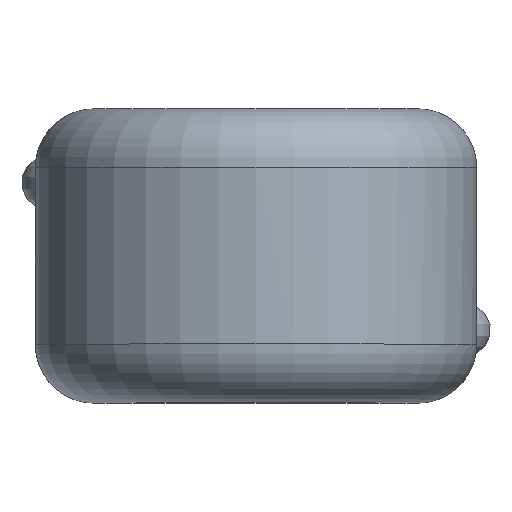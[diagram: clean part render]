
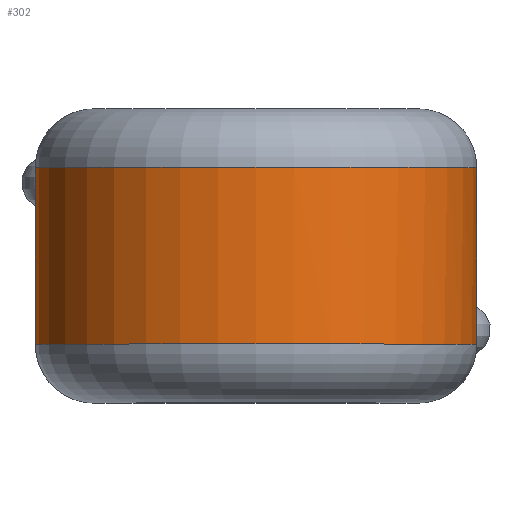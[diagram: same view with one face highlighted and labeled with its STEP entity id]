
A CAD part, top view. The second image highlights one B-rep face of the part: STEP entity #302.
In plain terms, the highlighted cylindrical face has radius 3.75 mm (diameter 7.5 mm), a full revolution.
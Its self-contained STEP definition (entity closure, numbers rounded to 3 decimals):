
#24=B_SPLINE_CURVE_WITH_KNOTS('',3,(#1019,#1020,#1021,#1022,#1023,#1024,
#1025,#1026,#1027,#1028),.UNSPECIFIED.,.F.,.F.,(4,1,1,1,1,1,1,4),(-0.233,
-0.199,-0.166,-0.133,-0.1,
-0.05,-0.033,0.),.UNSPECIFIED.);
#26=B_SPLINE_CURVE_WITH_KNOTS('',3,(#1090,#1091,#1092,#1093,#1094,#1095,
#1096,#1097,#1098,#1099),.UNSPECIFIED.,.F.,.F.,(4,1,1,1,1,1,1,4),(-0.233,
-0.199,-0.166,-0.133,-0.1,
-0.05,-0.033,0.),.UNSPECIFIED.);
#72=FACE_OUTER_BOUND('',#92,.T.);
#92=EDGE_LOOP('',(#241,#242,#243,#244,#245,#246,#247,#248,#249,#250));
#105=LINE('',#1084,#108);
#108=VECTOR('',#407,3.75);
#120=CIRCLE('',#347,3.75);
#121=CIRCLE('',#348,3.75);
#122=CIRCLE('',#349,3.75);
#123=CIRCLE('',#351,3.75);
#124=CIRCLE('',#352,3.75);
#125=CIRCLE('',#353,3.75);
#143=VERTEX_POINT('',#1015);
#144=VERTEX_POINT('',#1017);
#147=VERTEX_POINT('',#1076);
#148=VERTEX_POINT('',#1079);
#149=VERTEX_POINT('',#1083);
#150=VERTEX_POINT('',#1085);
#151=VERTEX_POINT('',#1087);
#152=VERTEX_POINT('',#1089);
#176=EDGE_CURVE('',#143,#144,#24,.T.);
#181=EDGE_CURVE('',#144,#147,#120,.T.);
#182=EDGE_CURVE('',#148,#143,#121,.T.);
#183=EDGE_CURVE('',#147,#148,#122,.T.);
#184=EDGE_CURVE('',#148,#149,#105,.T.);
#185=EDGE_CURVE('',#149,#150,#123,.T.);
#186=EDGE_CURVE('',#150,#151,#124,.T.);
#187=EDGE_CURVE('',#151,#152,#26,.T.);
#188=EDGE_CURVE('',#152,#149,#125,.T.);
#241=ORIENTED_EDGE('',*,*,#176,.T.);
#242=ORIENTED_EDGE('',*,*,#181,.T.);
#243=ORIENTED_EDGE('',*,*,#183,.T.);
#244=ORIENTED_EDGE('',*,*,#184,.T.);
#245=ORIENTED_EDGE('',*,*,#185,.T.);
#246=ORIENTED_EDGE('',*,*,#186,.T.);
#247=ORIENTED_EDGE('',*,*,#187,.T.);
#248=ORIENTED_EDGE('',*,*,#188,.T.);
#249=ORIENTED_EDGE('',*,*,#184,.F.);
#250=ORIENTED_EDGE('',*,*,#182,.T.);
#292=CYLINDRICAL_SURFACE('',#350,3.75);
#302=ADVANCED_FACE('',(#72),#292,.T.);
#347=AXIS2_PLACEMENT_3D('',#1078,#399,#400);
#348=AXIS2_PLACEMENT_3D('',#1080,#401,#402);
#349=AXIS2_PLACEMENT_3D('',#1081,#403,#404);
#350=AXIS2_PLACEMENT_3D('',#1082,#405,#406);
#351=AXIS2_PLACEMENT_3D('',#1086,#408,#409);
#352=AXIS2_PLACEMENT_3D('',#1088,#410,#411);
#353=AXIS2_PLACEMENT_3D('',#1100,#412,#413);
#399=DIRECTION('center_axis',(0.,-1.,0.));
#400=DIRECTION('ref_axis',(-1.,0.,0.));
#401=DIRECTION('center_axis',(0.,-1.,0.));
#402=DIRECTION('ref_axis',(-1.,0.,0.));
#403=DIRECTION('center_axis',(0.,-1.,0.));
#404=DIRECTION('ref_axis',(-1.,0.,0.));
#405=DIRECTION('center_axis',(0.,-1.,0.));
#406=DIRECTION('ref_axis',(1.,0.,0.));
#407=DIRECTION('',(0.,-1.,0.));
#408=DIRECTION('center_axis',(0.,1.,0.));
#409=DIRECTION('ref_axis',(-1.,0.,0.));
#410=DIRECTION('center_axis',(0.,1.,0.));
#411=DIRECTION('ref_axis',(-1.,0.,0.));
#412=DIRECTION('center_axis',(0.,1.,0.));
#413=DIRECTION('ref_axis',(-1.,0.,0.));
#1015=CARTESIAN_POINT('',(-2.998,1.5,-2.253));
#1017=CARTESIAN_POINT('',(-2.289,1.5,-2.97));
#1019=CARTESIAN_POINT('Ctrl Pts',(-2.998,1.5,-2.253));
#1020=CARTESIAN_POINT('Ctrl Pts',(-3.026,1.4,-2.216));
#1021=CARTESIAN_POINT('Ctrl Pts',(-3.047,1.172,-2.186));
#1022=CARTESIAN_POINT('Ctrl Pts',(-2.966,0.855,-2.298));
#1023=CARTESIAN_POINT('Ctrl Pts',(-2.787,0.666,-2.516));
#1024=CARTESIAN_POINT('Ctrl Pts',(-2.509,0.665,-2.797));
#1025=CARTESIAN_POINT('Ctrl Pts',(-2.3,0.905,-2.963));
#1026=CARTESIAN_POINT('Ctrl Pts',(-2.23,1.23,-3.015));
#1027=CARTESIAN_POINT('Ctrl Pts',(-2.252,1.4,-2.999));
#1028=CARTESIAN_POINT('Ctrl Pts',(-2.289,1.5,-2.97));
#1076=CARTESIAN_POINT('',(0.,1.5,-3.75));
#1078=CARTESIAN_POINT('Origin',(0.,1.5,0.));
#1079=CARTESIAN_POINT('',(-3.75,1.5,0.));
#1080=CARTESIAN_POINT('Origin',(0.,1.5,0.));
#1081=CARTESIAN_POINT('Origin',(0.,1.5,0.));
#1082=CARTESIAN_POINT('Origin',(0.,0.,0.));
#1083=CARTESIAN_POINT('',(-3.75,-1.5,0.));
#1084=CARTESIAN_POINT('',(-3.75,0.,0.));
#1085=CARTESIAN_POINT('',(0.,-1.5,3.75));
#1086=CARTESIAN_POINT('Origin',(0.,-1.5,0.));
#1087=CARTESIAN_POINT('',(2.998,-1.5,-2.253));
#1088=CARTESIAN_POINT('Origin',(0.,-1.5,0.));
#1089=CARTESIAN_POINT('',(2.289,-1.5,-2.97));
#1090=CARTESIAN_POINT('Ctrl Pts',(2.998,-1.5,-2.253));
#1091=CARTESIAN_POINT('Ctrl Pts',(3.026,-1.4,-2.216));
#1092=CARTESIAN_POINT('Ctrl Pts',(3.047,-1.172,-2.186));
#1093=CARTESIAN_POINT('Ctrl Pts',(2.966,-0.855,-2.298));
#1094=CARTESIAN_POINT('Ctrl Pts',(2.787,-0.666,-2.516));
#1095=CARTESIAN_POINT('Ctrl Pts',(2.509,-0.665,-2.797));
#1096=CARTESIAN_POINT('Ctrl Pts',(2.3,-0.905,-2.963));
#1097=CARTESIAN_POINT('Ctrl Pts',(2.23,-1.23,-3.015));
#1098=CARTESIAN_POINT('Ctrl Pts',(2.252,-1.4,-2.999));
#1099=CARTESIAN_POINT('Ctrl Pts',(2.289,-1.5,-2.97));
#1100=CARTESIAN_POINT('Origin',(0.,-1.5,0.));
